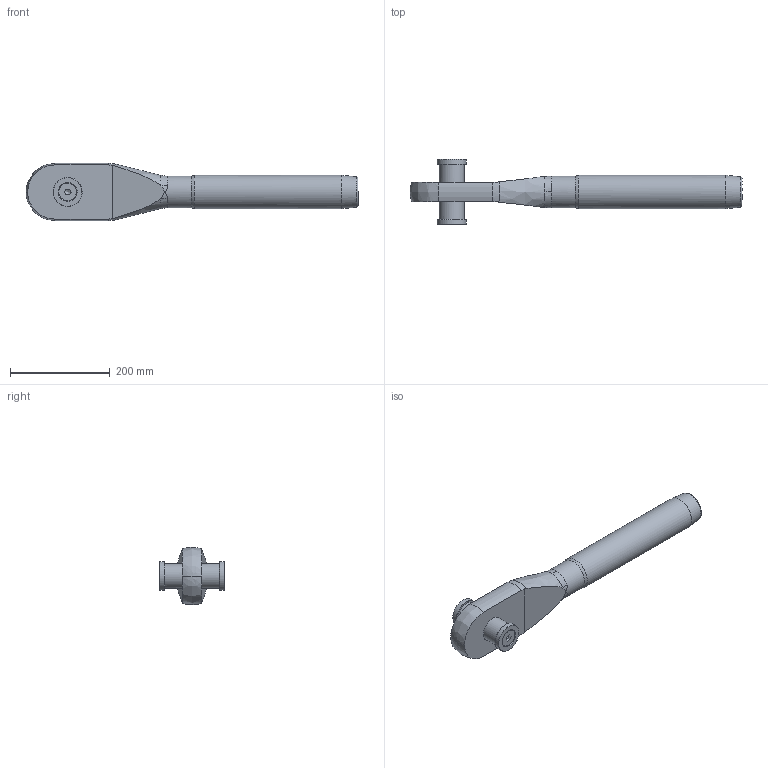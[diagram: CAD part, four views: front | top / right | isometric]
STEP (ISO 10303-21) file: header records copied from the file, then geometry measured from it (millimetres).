
FILE_DESCRIPTION(/* description */ (''),/* implementation_level */ '2;1');
FILE_NAME(/* name */ 'MCC 36_1,4418',/* time_stamp */ '2023-05-23T15:40:40+02:00',/* author */ (''),/* organization */ (''),/* preprocessor_version */ 'ST-DEVELOPER v16.5',/* originating_system */ 'Rhino 7.22',/* authorisation */ '');
FILE_SCHEMA (('CONFIG_CONTROL_DESIGN'));
Length unit declared in the file: millimetre
Products named in the file (1): Document
Bounding box: 664.5 x 130.04 x 114.99 mm (x, y, z)
Volume: 2641816.8 mm3; surface area: 207967.9 mm2
Topology: 6 solids, 6 shells, 74 faces, 203 edges, 135 vertices
Faces by surface type: bspline 31, plane 27, cylinder 16
Full cylindrical faces by diameter (mm): 17.294 x2, 20 x2, 21 x2, 35.4 x2, 50 x1, 52 x1, 58 x2, 63.5 x1, 66.8 x1
Entity records: 3250 total; most frequent: CARTESIAN_POINT 1995, ORIENTED_EDGE 386, EDGE_CURVE 193, VERTEX_POINT 135, EDGE_LOOP 84, ADVANCED_FACE 74, FACE_OUTER_BOUND 74, B_SPLINE_CURVE_WITH_KNOTS 64
